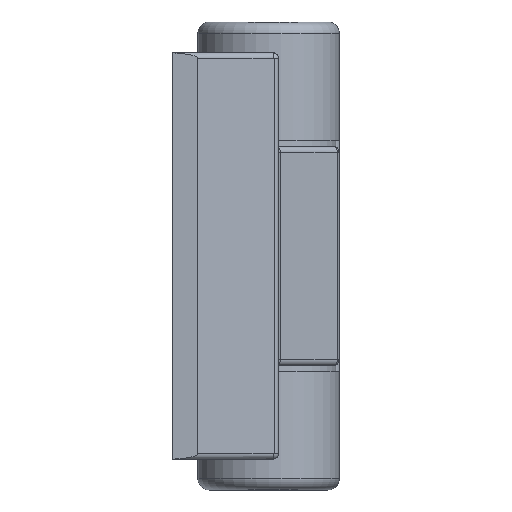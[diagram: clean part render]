
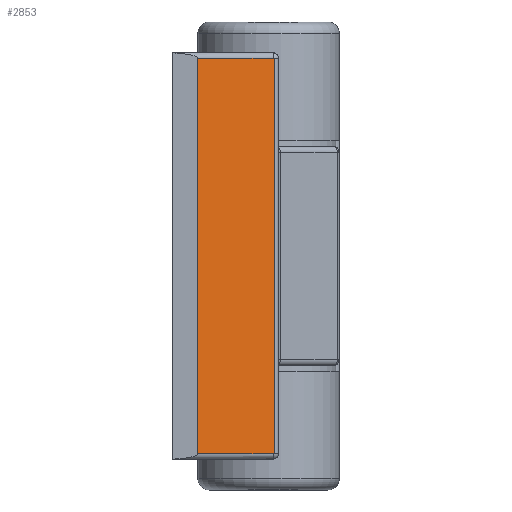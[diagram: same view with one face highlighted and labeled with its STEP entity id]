
A CAD part, left-side view. The second image highlights one B-rep face of the part: STEP entity #2853.
In plain terms, the highlighted planar face has unit normal (-0.983, -0.183, 0).
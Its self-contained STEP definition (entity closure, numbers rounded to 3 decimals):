
#871=CARTESIAN_POINT('',(-12.7,0.,17.12));
#897=CARTESIAN_POINT('',(-12.7,0.,-17.12));
#903=DIRECTION('',(0.183,-0.983,0.));
#904=VECTOR('',#903,6.704);
#905=CARTESIAN_POINT('',(-12.7,0.,17.12));
#906=LINE('',#905,#904);
#907=DIRECTION('',(0.,0.,-1.));
#908=VECTOR('',#907,34.24);
#909=CARTESIAN_POINT('',(-11.476,-6.591,17.12));
#910=LINE('',#909,#908);
#911=DIRECTION('',(-0.183,0.983,0.));
#912=VECTOR('',#911,6.704);
#913=CARTESIAN_POINT('',(-11.476,-6.591,-17.12));
#914=LINE('',#913,#912);
#915=DIRECTION('',(0.,0.,1.));
#916=VECTOR('',#915,34.24);
#917=CARTESIAN_POINT('',(-12.7,0.,-17.12));
#918=LINE('',#917,#916);
#1492=VERTEX_POINT('',#871);
#1497=CARTESIAN_POINT('',(-11.476,-6.591,17.12));
#1498=VERTEX_POINT('',#1497);
#1525=VERTEX_POINT('',#897);
#1526=CARTESIAN_POINT('',(-11.476,-6.591,-17.12));
#1527=VERTEX_POINT('',#1526);
#2841=CARTESIAN_POINT('',(-12.7,0.,-17.62));
#2842=DIRECTION('',(-0.983,-0.183,0.));
#2843=DIRECTION('',(0.183,-0.983,0.));
#2844=AXIS2_PLACEMENT_3D('',#2841,#2842,#2843);
#2845=PLANE('',#2844);
#2846=ORIENTED_EDGE('',*,*,#2822,.T.);
#2847=ORIENTED_EDGE('',*,*,#2795,.T.);
#2849=ORIENTED_EDGE('',*,*,#2848,.T.);
#2850=ORIENTED_EDGE('',*,*,#2833,.T.);
#2851=EDGE_LOOP('',(#2846,#2847,#2849,#2850));
#2852=FACE_OUTER_BOUND('',#2851,.F.);
#2853=ADVANCED_FACE('',(#2852),#2845,.T.);
#2795=EDGE_CURVE('',#1498,#1527,#910,.T.);
#2822=EDGE_CURVE('',#1492,#1498,#906,.T.);
#2833=EDGE_CURVE('',#1525,#1492,#918,.T.);
#2848=EDGE_CURVE('',#1527,#1525,#914,.T.);
